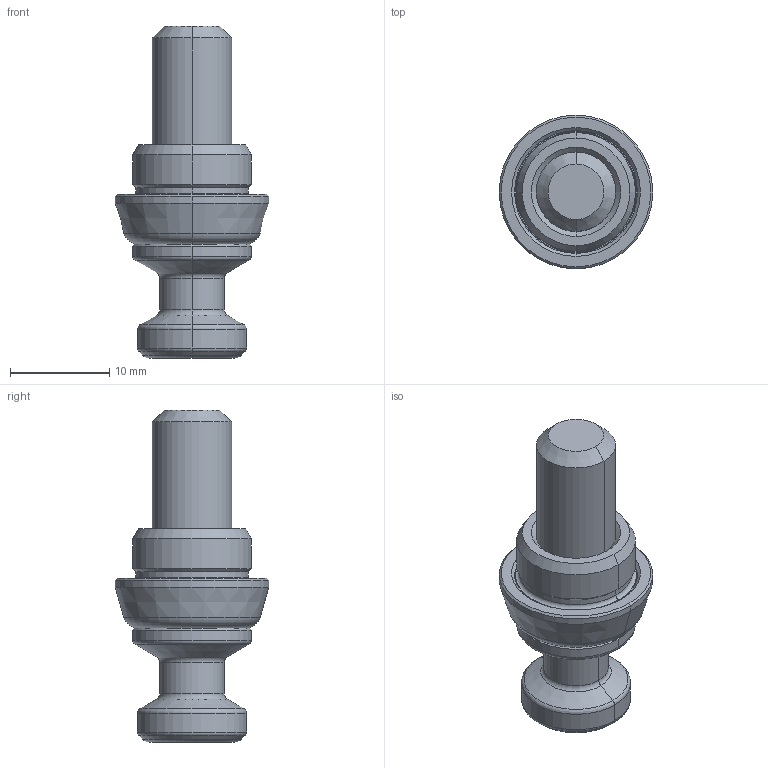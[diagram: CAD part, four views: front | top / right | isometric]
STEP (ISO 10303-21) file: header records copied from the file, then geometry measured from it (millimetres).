
FILE_DESCRIPTION (( 'STEP AP203' ), '1' );
FILE_NAME ('cp155-08001l.STEP', '2021-10-25T23:35:48', ( '' ), ( '' ), 'SwSTEP 2.0', 'SolidWorks 2020', '' );
FILE_SCHEMA (( 'CONFIG_CONTROL_DESIGN' ));
Length unit declared in the file: millimetre
Products named in the file (1): cp155-08001l
Bounding box: 15.5 x 15.5 x 33.5 mm (x, y, z)
Volume: 2703.9 mm3; surface area: 1462.7 mm2
Topology: 1 solids, 1 shells, 67 faces, 138 edges, 78 vertices
Faces by surface type: cone 24, torus 16, cylinder 14, plane 13
Entity records: 1857 total; most frequent: DIRECTION 346, CARTESIAN_POINT 324, ORIENTED_EDGE 276, AXIS2_PLACEMENT_3D 148, EDGE_CURVE 138, CIRCLE 80, VERTEX_POINT 78, EDGE_LOOP 72
